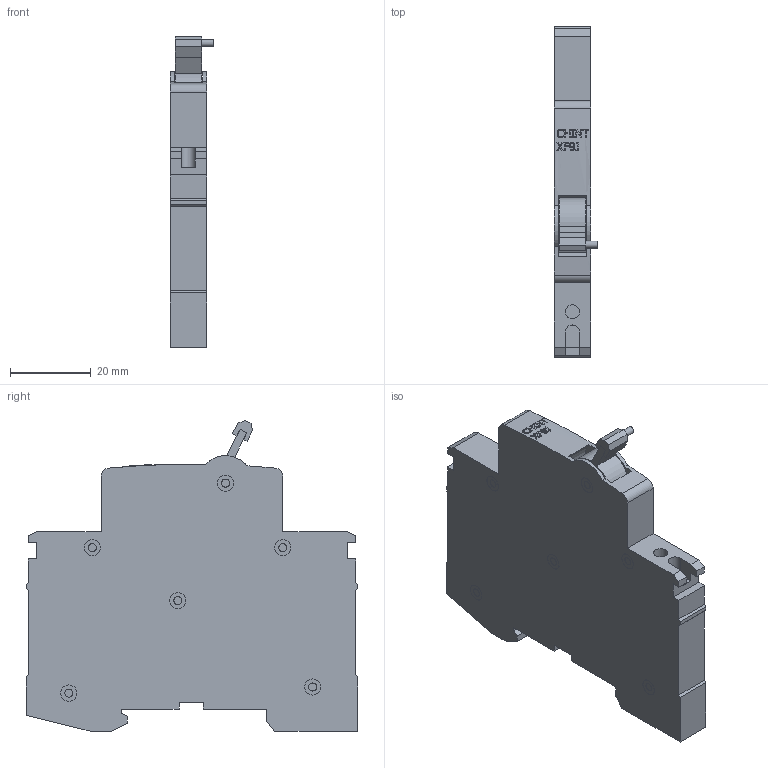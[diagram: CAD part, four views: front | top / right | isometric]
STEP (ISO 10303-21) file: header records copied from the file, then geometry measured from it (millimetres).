
FILE_DESCRIPTION(/* description */ (''),/* implementation_level */ '2;1');
FILE_NAME(/* name */ 'D:\CHINT\Аксессуары для автоматического выключателя Серия NB1\Сигнальный контакт XF9J для NB1 (R) (CHINT).stp',/* time_stamp */ '2017-09-02T17:15:44+04:00',/* author */ ('RSagdiev'),/* organization */ (''),/* preprocessor_version */ 'ST-DEVELOPER v16.5',/* originating_system */ 'Autodesk Inventor 2017',/* authorisation */ '');
FILE_SCHEMA (('AUTOMOTIVE_DESIGN { 1 0 10303 214 3 1 1 }'));
Length unit declared in the file: millimetre
Products named in the file (1): Сигнальный \X2\043A043E043D0442
0430043A0442\X0\ XF9J для NB1 (R) (CHINT)
Bounding box: 10.75 x 82 x 76.98 mm (x, y, z)
Volume: 40115.4 mm3; surface area: 13373.8 mm2
Topology: 3 solids, 3 shells, 257 faces, 645 edges, 430 vertices
Faces by surface type: plane 172, cylinder 45, bspline 40
Full cylindrical faces by diameter (mm): 1.786 x1, 2 x12, 3.493 x1, 4 x12
Entity records: 8299 total; most frequent: CARTESIAN_POINT 2294, ORIENTED_EDGE 1238, DIRECTION 1133, EDGE_CURVE 619, VERTEX_POINT 430, LINE 381, VECTOR 381, AXIS2_PLACEMENT_3D 376
